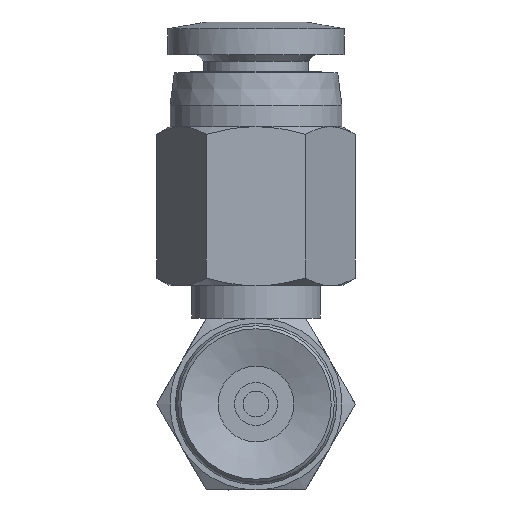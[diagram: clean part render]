
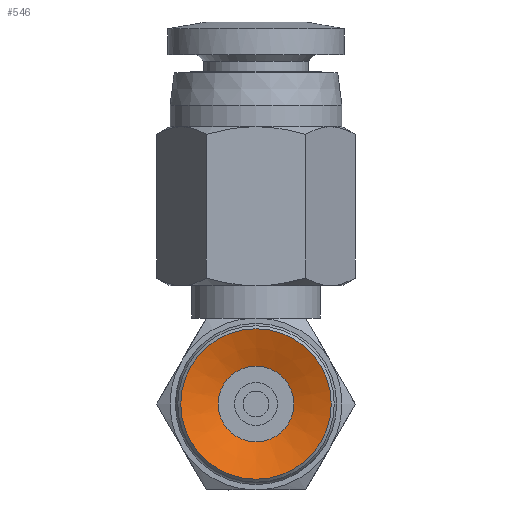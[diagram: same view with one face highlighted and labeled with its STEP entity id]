
A CAD part, front view. The second image highlights one B-rep face of the part: STEP entity #546.
In plain terms, the highlighted conical face has half-angle 70 degrees and reference radius 3.5 mm.
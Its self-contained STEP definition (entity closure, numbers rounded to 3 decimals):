
#546=ADVANCED_FACE('',(#838,#839),#840,.F.);
#838=FACE_BOUND('',#1253,.T.);
#839=FACE_OUTER_BOUND('',#1254,.T.);
#840=CONICAL_SURFACE('',#1255,3.5,1.222);
#1253=EDGE_LOOP('',(#2280));
#1254=EDGE_LOOP('',(#2281));
#1255=AXIS2_PLACEMENT_3D('',#2282,#2283,#2284);
#2280=ORIENTED_EDGE('',*,*,#2887,.F.);
#2281=ORIENTED_EDGE('',*,*,#2885,.T.);
#2282=CARTESIAN_POINT('',(0.0,0.0,0.0));
#2283=DIRECTION('',(-0.0,-1.0,0.));
#2284=DIRECTION('',(0.0,0.,-1.0));
#2885=EDGE_CURVE('',#3280,#3280,#3281,.T.);
#2887=EDGE_CURVE('',#3284,#3284,#3285,.T.);
#3280=VERTEX_POINT('',#4134);
#3281=CIRCLE('',#4135,3.5);
#3284=VERTEX_POINT('',#4138);
#3285=CIRCLE('',#4139,1.765);
#4134=CARTESIAN_POINT('',(0.0,0.,-3.5));
#4135=AXIS2_PLACEMENT_3D('',#4840,#4841,#4842);
#4138=CARTESIAN_POINT('',(0.0,0.632,-1.765));
#4139=AXIS2_PLACEMENT_3D('',#4846,#4847,#4848);
#4840=CARTESIAN_POINT('',(0.0,0.0,0.0));
#4841=DIRECTION('',(0.0,-1.0,0.));
#4842=DIRECTION('',(0.0,0.,-1.0));
#4846=CARTESIAN_POINT('',(0.0,0.632,0.0));
#4847=DIRECTION('',(0.0,-1.0,0.));
#4848=DIRECTION('',(0.0,0.,-1.0));
